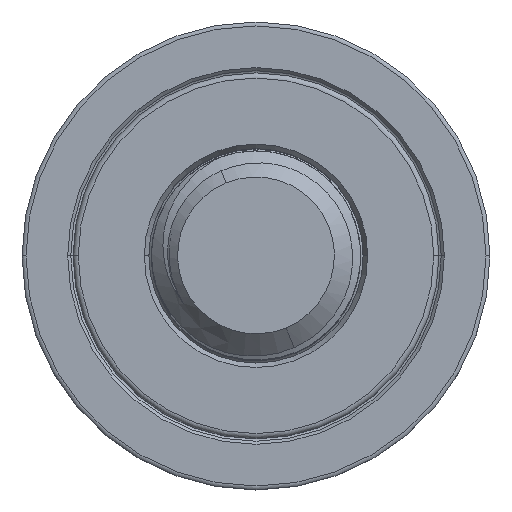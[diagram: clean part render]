
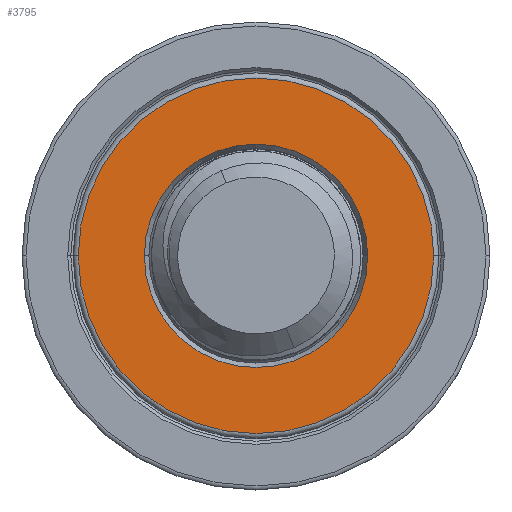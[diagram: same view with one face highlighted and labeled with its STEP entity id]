
A CAD part, top view. The second image highlights one B-rep face of the part: STEP entity #3795.
In plain terms, the highlighted planar face has unit normal (0, 0, 1).
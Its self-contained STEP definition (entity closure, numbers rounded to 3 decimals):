
#10 = DIRECTION ( 'NONE',  ( 1., 0., 0. ) ) ;
#19 = EDGE_LOOP ( 'NONE', ( #4284, #393 ) ) ;
#41 = AXIS2_PLACEMENT_3D ( 'NONE', #375, #3967, #3576 ) ;
#191 = VERTEX_POINT ( 'NONE', #1635 ) ;
#336 = CARTESIAN_POINT ( 'NONE',  ( 7., 0., 0. ) ) ;
#337 = VERTEX_POINT ( 'NONE', #3544 ) ;
#375 = CARTESIAN_POINT ( 'NONE',  ( 0., 0., 0. ) ) ;
#391 = AXIS2_PLACEMENT_3D ( 'NONE', #3249, #2829, #10 ) ;
#393 = ORIENTED_EDGE ( 'NONE', *, *, #2527, .T. ) ;
#654 = DIRECTION ( 'NONE',  ( 1., 0., 0. ) ) ;
#812 = CIRCLE ( 'NONE', #391, 4.273 ) ;
#838 = EDGE_LOOP ( 'NONE', ( #1889, #1828 ) ) ;
#870 = EDGE_CURVE ( 'NONE', #191, #4569, #1532, .T. ) ;
#1085 = EDGE_CURVE ( 'NONE', #3838, #337, #812, .T. ) ;
#1450 = AXIS2_PLACEMENT_3D ( 'NONE', #1621, #1978, #4477 ) ;
#1532 = CIRCLE ( 'NONE', #1450, 6.8 ) ;
#1591 = DIRECTION ( 'NONE',  ( 1., 0., 0. ) ) ;
#1621 = CARTESIAN_POINT ( 'NONE',  ( 0., 0., 0. ) ) ;
#1635 = CARTESIAN_POINT ( 'NONE',  ( -6.8, 0., 0. ) ) ;
#1642 = DIRECTION ( 'NONE',  ( 0., 0., -1. ) ) ;
#1828 = ORIENTED_EDGE ( 'NONE', *, *, #870, .T. ) ;
#1889 = ORIENTED_EDGE ( 'NONE', *, *, #2173, .T. ) ;
#1978 = DIRECTION ( 'NONE',  ( 0., 0., 1. ) ) ;
#2173 = EDGE_CURVE ( 'NONE', #4569, #191, #4098, .T. ) ;
#2527 = EDGE_CURVE ( 'NONE', #337, #3838, #3695, .T. ) ;
#2758 = CARTESIAN_POINT ( 'NONE',  ( 6.8, 0., 0. ) ) ;
#2829 = DIRECTION ( 'NONE',  ( 0., 0., -1. ) ) ;
#2943 = AXIS2_PLACEMENT_3D ( 'NONE', #3775, #1642, #1591 ) ;
#3249 = CARTESIAN_POINT ( 'NONE',  ( 0., 0., 0. ) ) ;
#3409 = FACE_BOUND ( 'NONE', #19, .T. ) ;
#3471 = CARTESIAN_POINT ( 'NONE',  ( 4.273, 0., 0. ) ) ;
#3484 = DIRECTION ( 'NONE',  ( 0., 0., 1. ) ) ;
#3544 = CARTESIAN_POINT ( 'NONE',  ( -4.273, 0., 0. ) ) ;
#3576 = DIRECTION ( 'NONE',  ( 1., 0., 0. ) ) ;
#3606 = AXIS2_PLACEMENT_3D ( 'NONE', #336, #3484, #654 ) ;
#3695 = CIRCLE ( 'NONE', #2943, 4.273 ) ;
#3758 = FACE_OUTER_BOUND ( 'NONE', #838, .T. ) ;
#3775 = CARTESIAN_POINT ( 'NONE',  ( 0., 0., 0. ) ) ;
#3795 = ADVANCED_FACE ( 'NONE', ( #3758, #3409 ), #3825, .T. ) ;
#3825 = PLANE ( 'NONE',  #3606 ) ;
#3838 = VERTEX_POINT ( 'NONE', #3471 ) ;
#3967 = DIRECTION ( 'NONE',  ( 0., 0., 1. ) ) ;
#4098 = CIRCLE ( 'NONE', #41, 6.8 ) ;
#4284 = ORIENTED_EDGE ( 'NONE', *, *, #1085, .T. ) ;
#4477 = DIRECTION ( 'NONE',  ( 1., 0., 0. ) ) ;
#4569 = VERTEX_POINT ( 'NONE', #2758 ) ;
